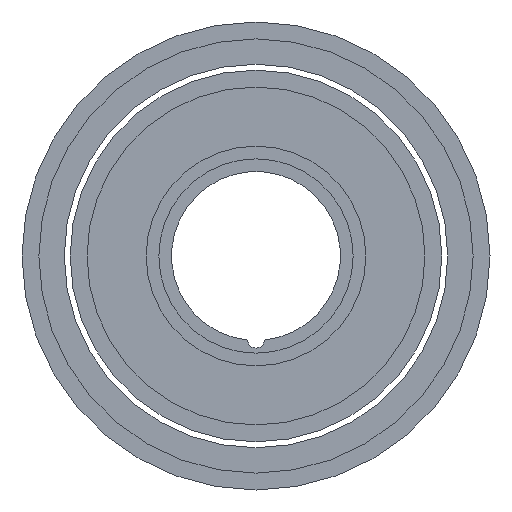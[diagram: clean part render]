
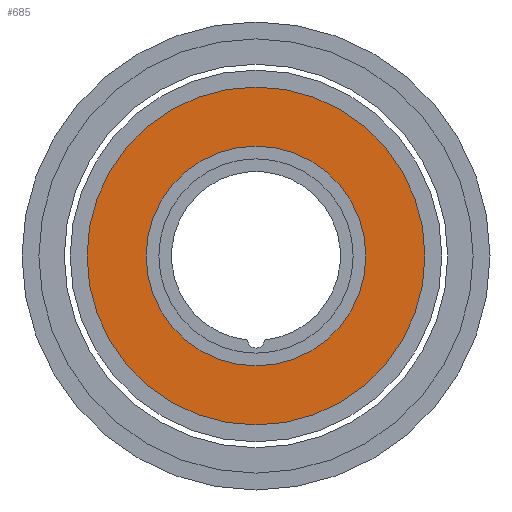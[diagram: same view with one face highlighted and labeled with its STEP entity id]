
A CAD part, front view. The second image highlights one B-rep face of the part: STEP entity #685.
In plain terms, the highlighted planar face has unit normal (0, -1, 0).
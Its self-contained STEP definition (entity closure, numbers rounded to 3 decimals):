
#8 = DIRECTION ( 'NONE',  ( 0., 0., 1. ) ) ;
#43 = EDGE_CURVE ( 'NONE', #813, #412, #288, .T. ) ;
#53 = CARTESIAN_POINT ( 'NONE',  ( 0., -1.2, 0. ) ) ;
#82 = EDGE_CURVE ( 'NONE', #215, #1317, #425, .T. ) ;
#164 = DIRECTION ( 'NONE',  ( 0., 0., 1. ) ) ;
#196 = CARTESIAN_POINT ( 'NONE',  ( 0., -1.2, -6.5 ) ) ;
#215 = VERTEX_POINT ( 'NONE', #196 ) ;
#222 = FACE_OUTER_BOUND ( 'NONE', #868, .T. ) ;
#229 = CIRCLE ( 'NONE', #1074, 10. ) ;
#242 = CARTESIAN_POINT ( 'NONE',  ( 0., -1.2, 0. ) ) ;
#288 = CIRCLE ( 'NONE', #646, 10. ) ;
#327 = FACE_BOUND ( 'NONE', #729, .T. ) ;
#352 = AXIS2_PLACEMENT_3D ( 'NONE', #53, #1353, #164 ) ;
#367 = CARTESIAN_POINT ( 'NONE',  ( 0., -1.2, -10. ) ) ;
#412 = VERTEX_POINT ( 'NONE', #1307 ) ;
#425 = CIRCLE ( 'NONE', #1241, 6.5 ) ;
#466 = ORIENTED_EDGE ( 'NONE', *, *, #1631, .T. ) ;
#514 = DIRECTION ( 'NONE',  ( 0., 1., 0. ) ) ;
#551 = EDGE_CURVE ( 'NONE', #412, #813, #229, .T. ) ;
#564 = CARTESIAN_POINT ( 'NONE',  ( 0., -1.2, 0. ) ) ;
#586 = PLANE ( 'NONE',  #1102 ) ;
#646 = AXIS2_PLACEMENT_3D ( 'NONE', #1152, #1179, #1027 ) ;
#685 = ADVANCED_FACE ( 'NONE', ( #327, #222 ), #586, .F. ) ;
#715 = DIRECTION ( 'NONE',  ( 0., 0., 1. ) ) ;
#729 = EDGE_LOOP ( 'NONE', ( #466, #1018 ) ) ;
#813 = VERTEX_POINT ( 'NONE', #367 ) ;
#867 = CIRCLE ( 'NONE', #352, 6.5 ) ;
#868 = EDGE_LOOP ( 'NONE', ( #899, #1228 ) ) ;
#874 = CARTESIAN_POINT ( 'NONE',  ( 0., -1.2, 0. ) ) ;
#881 = CARTESIAN_POINT ( 'NONE',  ( 0., -1.2, 6.5 ) ) ;
#899 = ORIENTED_EDGE ( 'NONE', *, *, #551, .F. ) ;
#1018 = ORIENTED_EDGE ( 'NONE', *, *, #82, .T. ) ;
#1027 = DIRECTION ( 'NONE',  ( 0., 0., 1. ) ) ;
#1074 = AXIS2_PLACEMENT_3D ( 'NONE', #564, #1333, #1351 ) ;
#1102 = AXIS2_PLACEMENT_3D ( 'NONE', #874, #1258, #715 ) ;
#1152 = CARTESIAN_POINT ( 'NONE',  ( 0., -1.2, 0. ) ) ;
#1179 = DIRECTION ( 'NONE',  ( 0., 1., 0. ) ) ;
#1228 = ORIENTED_EDGE ( 'NONE', *, *, #43, .F. ) ;
#1241 = AXIS2_PLACEMENT_3D ( 'NONE', #242, #514, #8 ) ;
#1258 = DIRECTION ( 'NONE',  ( 0., 1., 0. ) ) ;
#1307 = CARTESIAN_POINT ( 'NONE',  ( 0., -1.2, 10. ) ) ;
#1317 = VERTEX_POINT ( 'NONE', #881 ) ;
#1333 = DIRECTION ( 'NONE',  ( 0., 1., 0. ) ) ;
#1351 = DIRECTION ( 'NONE',  ( 0., 0., 1. ) ) ;
#1353 = DIRECTION ( 'NONE',  ( 0., 1., 0. ) ) ;
#1631 = EDGE_CURVE ( 'NONE', #1317, #215, #867, .T. ) ;
